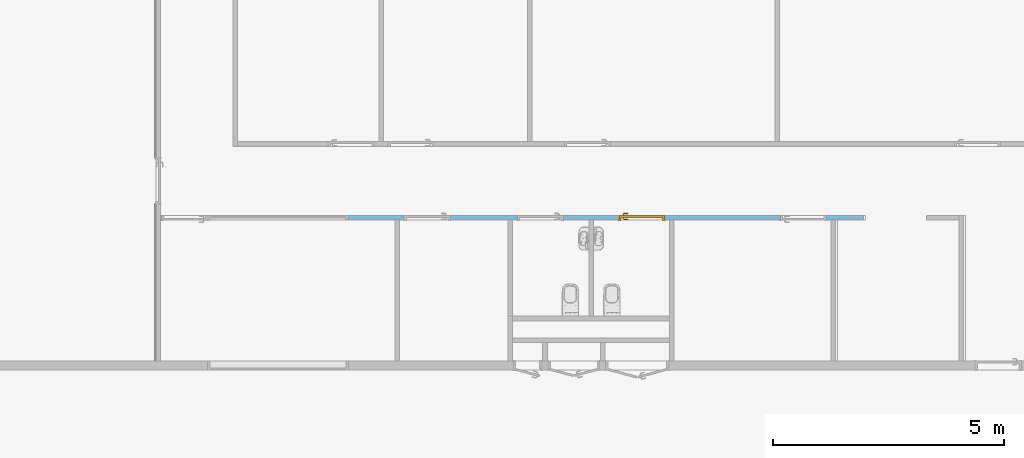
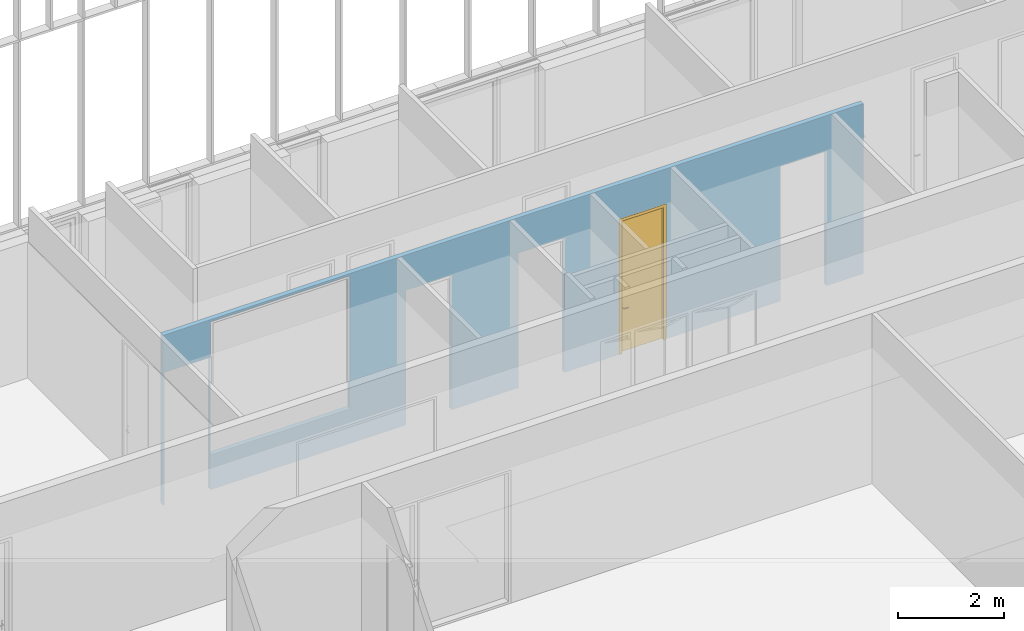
# One storey, part 140 of 240: 1 door, 6 openings, plus 1 element that does not belong to this part.
"""IFC2X3 building model written with IfcOpenShell, lengths in centimetres."""

import ifcopenshell
import ifcopenshell.guid

model = None  # the IFC model being written
_history = None  # IfcOwnerHistory: only IFC2X3 demands one
_inside = {}  # id of a spatial element -> (the spatial element, [elements in it])
_under = {}  # id of a project, library or spatial element -> (it, [spatial elements below it])
_declared = {}  # id of a project -> (the project, [libraries it declares])
_typed = {}  # id of a type object -> (the type object, [elements of that type])
_made_of = {}  # id of a material, layer set ... -> (it, [elements and type objects made of it])


def new_model(schema):
    """Start an empty IFC model of exactly this schema.

    Asked for "IFC4X3", IfcOpenShell would pick the latest addendum, in which some entities
    have other attributes; the version numbers below select the first issue.
    IFC2X3 requires an IfcOwnerHistory on every rooted entity: one is made here for all.
    """
    global model, _history
    if schema == "IFC4X3":
        model = ifcopenshell.file(schema_version=(4, 3, 0, 0))
    else:
        model = ifcopenshell.file(schema=schema)
    _inside.clear()
    _under.clear()
    _declared.clear()
    _typed.clear()
    _made_of.clear()
    _history = None
    if model.schema == "IFC2X3":
        org = make("IfcOrganization", Name="unknown")
        user = make(
            "IfcPersonAndOrganization",
            ThePerson=make("IfcPerson", FamilyName="unknown"),
            TheOrganization=org,
        )
        app = make(
            "IfcApplication",
            ApplicationDeveloper=org,
            Version="unknown",
            ApplicationFullName="unknown",
            ApplicationIdentifier="unknown",
        )
        _history = make(
            "IfcOwnerHistory",
            OwningUser=user,
            OwningApplication=app,
            ChangeAction="ADDED",
            CreationDate=0,
        )
    return model


def make(cls, **values):
    """One entity of the class cls with the attributes given. An attribute that is None is left unset."""
    return model.create_entity(
        cls, **{name: value for name, value in values.items() if value is not None}
    )


def entity(cls, *values):
    """Any entity or typed value of the class cls, its attributes in the order of the schema. None: left unset."""
    e = model.create_entity(cls)
    for i, value in enumerate(values):
        if value is not None:
            e[i] = value
    return e


def rooted(cls, **values):
    """An entity with a GlobalId (a new one), such as an element, a storey or a relation."""
    return make(cls, GlobalId=ifcopenshell.guid.new(), OwnerHistory=_history, **values)


def si_unit(unit_type, name, prefix=None):
    """IfcSIUnit, for example si_unit("LENGTHUNIT", "METRE", prefix="MILLI")."""
    return make("IfcSIUnit", UnitType=unit_type, Prefix=prefix, Name=name)


def converted_unit(unit_type, name, factor, base, dimensions=None, offset=None):
    """IfcConversionBasedUnit, such as the inch: factor (a typed value) times the base unit."""
    return make(
        "IfcConversionBasedUnit"
        if offset is None
        else "IfcConversionBasedUnitWithOffset",
        ConversionOffset=offset,
        Dimensions=None
        if dimensions is None
        else entity("IfcDimensionalExponents", *dimensions),
        UnitType=unit_type,
        Name=name,
        ConversionFactor=make(
            "IfcMeasureWithUnit", ValueComponent=factor, UnitComponent=base
        ),
    )


def derived_unit(unit_type, elements):
    """IfcDerivedUnit: a product of units, each with its exponent."""
    return make(
        "IfcDerivedUnit",
        Elements=[
            make("IfcDerivedUnitElement", Unit=unit, Exponent=power)
            for unit, power in elements
        ],
        UnitType=unit_type,
    )


def assignment(units):
    """IfcUnitAssignment: the units of a project."""
    return None if units is None else make("IfcUnitAssignment", Units=units)


def point(xyz):
    """IfcCartesianPoint."""
    return None if xyz is None else make("IfcCartesianPoint", Coordinates=xyz)


def direction(xyz):
    """IfcDirection."""
    return None if xyz is None else make("IfcDirection", DirectionRatios=xyz)


def frame(location, z_axis=None, x_axis=None):
    """IfcAxis2Placement3D, a coordinate frame: its origin and axes. An axis left out is left unset."""
    return make(
        "IfcAxis2Placement3D",
        Location=point(location),
        Axis=direction(z_axis),
        RefDirection=direction(x_axis),
    )


def frame_2d(location, x_axis=None):
    """IfcAxis2Placement2D, a coordinate frame in the plane: its origin and x axis."""
    return make(
        "IfcAxis2Placement2D", Location=point(location), RefDirection=direction(x_axis)
    )


def origin():
    """The frame at (0, 0, 0) with its axes left unset."""
    return frame((0.0, 0.0, 0.0))


def place(relative_to, where):
    """IfcLocalPlacement: puts the frame where relative to a parent placement (None: the world)."""
    return make(
        "IfcLocalPlacement", PlacementRelTo=relative_to, RelativePlacement=where
    )


def context(
    kind, dimensions, precision=None, world=None, true_north=None, identifier=None
):
    """IfcGeometricRepresentationContext, for example the 3D "Model" context."""
    return make(
        "IfcGeometricRepresentationContext",
        ContextIdentifier=identifier,
        ContextType=kind,
        CoordinateSpaceDimension=dimensions,
        Precision=precision,
        WorldCoordinateSystem=world,
        TrueNorth=true_north,
    )


def subcontext(parent, identifier, kind, view, scale=None):
    """IfcGeometricRepresentationSubContext, for example "Body" below "Model"."""
    return make(
        "IfcGeometricRepresentationSubContext",
        ContextIdentifier=identifier,
        ContextType=kind,
        ParentContext=parent,
        TargetScale=scale,
        TargetView=view,
    )


def project(units=None, contexts=None):
    """IfcProject with its units and contexts."""
    return rooted(
        "IfcProject",
        Name="project",
        RepresentationContexts=contexts,
        UnitsInContext=assignment(units),
    )


def spatial(cls, under=None, at=None, **own):
    """A site, building, storey or space (cls), placed at a placement, below another one or the project."""
    s = rooted(cls, ObjectPlacement=at, **own)
    if under is not None:
        _under.setdefault(under.id(), (under, []))[1].append(s)
    return s


def polyline(points):
    """IfcPolyline through the points."""
    return make("IfcPolyline", Points=[point(p) for p in points])


def profile(cls, at=None, kind="AREA", **sizes):
    """A parametric profile (cls). Its sizes go by their IFC names, for example OverallWidth=200.0."""
    return make(cls, ProfileType=kind, Position=at, **sizes)


def rectangle(**sizes):
    """IfcRectangleProfileDef."""
    return profile("IfcRectangleProfileDef", **sizes)


def extrude(swept, where, along, depth):
    """IfcExtrudedAreaSolid: the profile swept, set in the frame where, extruded along a direction by depth."""
    return make(
        "IfcExtrudedAreaSolid",
        SweptArea=swept,
        Position=where,
        ExtrudedDirection=direction(along),
        Depth=depth,
    )


def clip(a, b, op="DIFFERENCE"):
    """IfcBooleanClippingResult: the solid a cut by the half space b."""
    return make(
        "IfcBooleanClippingResult", Operator=op, FirstOperand=a, SecondOperand=b
    )


def bounded_halfspace(plane, agree, where, boundary):
    """IfcPolygonalBoundedHalfSpace: a half space limited to a polygon's prism."""
    return make(
        "IfcPolygonalBoundedHalfSpace",
        BaseSurface=make("IfcPlane", Position=plane),
        AgreementFlag=agree,
        Position=where,
        PolygonalBoundary=boundary,
    )


def faces_of(points, faces, orient=None, outer=None):
    """IfcFace entities. A face is a list of loops; a loop is a list of indices into points, from 0.

    orient and outer hold one flag for each loop. By default every Orientation is true, the
    first loop of a face is its IfcFaceOuterBound and the others are IfcFaceBound.
    """
    made = []
    for i, loops in enumerate(faces):
        bounds = []
        for j, loop in enumerate(loops):
            is_outer = j == 0 if outer is None else outer[i][j]
            bounds.append(
                make(
                    "IfcFaceOuterBound" if is_outer else "IfcFaceBound",
                    Bound=make("IfcPolyLoop", Polygon=[points[k] for k in loop]),
                    Orientation=True if orient is None else orient[i][j],
                )
            )
        made.append(make("IfcFace", Bounds=bounds))
    return made


def faceted_brep(points, faces, orient=None, outer=None, voids=None):
    """IfcFacetedBrep: a solid bounded by flat faces; with voids (closed shells), ...WithVoids."""
    shared = [point(p) for p in points]
    hull = make("IfcClosedShell", CfsFaces=faces_of(shared, faces, orient, outer))
    if voids is None:
        return make("IfcFacetedBrep", Outer=hull)
    return make(
        "IfcFacetedBrepWithVoids",
        Outer=hull,
        Voids=[
            make(cls, CfsFaces=faces_of(shared, fs, o, b)) for cls, fs, o, b in voids
        ],
    )


def shape(context_of_items, identifier, shape_type, items):
    """IfcShapeRepresentation: the items that make up one representation, for example the "Body"."""
    return make(
        "IfcShapeRepresentation",
        ContextOfItems=context_of_items,
        RepresentationIdentifier=identifier,
        RepresentationType=shape_type,
        Items=items,
    )


def source(mapping_origin, context_of_items, identifier, shape_type, items):
    """IfcRepresentationMap: a shape defined once, which mapped items show again and again."""
    return make(
        "IfcRepresentationMap",
        MappingOrigin=mapping_origin,
        MappedRepresentation=shape(context_of_items, identifier, shape_type, items),
    )


def transform(
    local_origin,
    x_axis=None,
    y_axis=None,
    z_axis=None,
    scale=None,
    scale2=None,
    scale3=None,
    uniform=True,
):
    """IfcCartesianTransformationOperator3D, or its non-uniform kind. x_axis, y_axis, z_axis: its Axis1, 2, 3."""
    if uniform:
        return make(
            "IfcCartesianTransformationOperator3D",
            Axis1=direction(x_axis),
            Axis2=direction(y_axis),
            LocalOrigin=point(local_origin),
            Scale=scale,
            Axis3=direction(z_axis),
        )
    return make(
        "IfcCartesianTransformationOperator3DnonUniform",
        Axis1=direction(x_axis),
        Axis2=direction(y_axis),
        LocalOrigin=point(local_origin),
        Scale=scale,
        Axis3=direction(z_axis),
        Scale2=scale2,
        Scale3=scale3,
    )


def mapped(mapping_source, mapping_target):
    """IfcMappedItem: shows the shape of a source again, moved by a transform."""
    return make(
        "IfcMappedItem", MappingSource=mapping_source, MappingTarget=mapping_target
    )


def material(Name=None, Category=None):
    """IfcMaterial."""
    return make("IfcMaterial", Name=Name, Category=Category)


def material_list(materials):
    """IfcMaterialList."""
    return make("IfcMaterialList", Materials=materials)


def layer(
    of_material, thickness, ventilated=None, Name=None, Category=None, Priority=None
):
    """IfcMaterialLayer: one layer of a wall or slab, of a material (None: an air gap)."""
    return make(
        "IfcMaterialLayer",
        Material=of_material,
        LayerThickness=thickness,
        IsVentilated=ventilated,
        Name=Name,
        Category=Category,
        Priority=Priority,
    )


def layer_set(layers, Name=None):
    """IfcMaterialLayerSet."""
    return make("IfcMaterialLayerSet", MaterialLayers=layers, LayerSetName=Name)


def layer_usage(for_layer_set, set_direction, sense, offset, extent=None):
    """IfcMaterialLayerSetUsage: how a layer set lies in its element."""
    return make(
        "IfcMaterialLayerSetUsage",
        ForLayerSet=for_layer_set,
        LayerSetDirection=set_direction,
        DirectionSense=sense,
        OffsetFromReferenceLine=offset,
        ReferenceExtent=extent,
    )


def made_of(thing, what):
    """Note that an element or type object is made of a material, layer set ...; save() writes the relation."""
    if what is not None:
        _made_of.setdefault(what.id(), (what, []))[1].append(thing)
    return thing


def type_object(cls, material=None, **own):
    """A type object (cls), such as IfcWallType, which elements share."""
    return made_of(rooted(cls, **own), material)


def type_shapes(of_type, sources):
    """Give a type object the sources (RepresentationMaps) that its elements show as mapped items."""
    of_type.RepresentationMaps = sources


def element(
    cls,
    number,
    at=None,
    inside=None,
    cuts=None,
    type_object=None,
    material=None,
    context=None,
    identifier="Body",
    shape_type=None,
    held_by="IfcProductDefinitionShape",
    body=None,
    shapes=None,
    **own,
):
    """One element of the class cls, such as IfcWall. Its Tag is "e" and its number.

    at: its placement. inside: the storey or other place that contains it. cuts: it is an
    opening in that element (IfcRelVoidsElement). A single representation is given by context,
    identifier, shape_type and body (its items); several are given by shapes. held_by: the class
    of the entity that holds the representations. save() writes the other relations.
    """
    e = rooted(cls, Tag="e%d" % number, ObjectPlacement=at, **own)
    if body is not None:
        shapes = [shape(context, identifier, shape_type, body)]
    if shapes is not None:
        e.Representation = make(held_by, Representations=shapes)
    if inside is not None:
        _inside.setdefault(inside.id(), (inside, []))[1].append(e)
    if cuts is not None:
        rooted(
            "IfcRelVoidsElement", RelatingBuildingElement=cuts, RelatedOpeningElement=e
        )
    if type_object is not None:
        _typed.setdefault(type_object.id(), (type_object, []))[1].append(e)
    return made_of(e, material)


def fill(opening, filler):
    """IfcRelFillsElement: the door or window that sits in an opening."""
    return rooted(
        "IfcRelFillsElement",
        RelatingOpeningElement=opening,
        RelatedBuildingElement=filler,
    )


def aggregate(whole, parts):
    """IfcRelAggregates: a whole, such as a stair, and the parts it consists of."""
    return rooted("IfcRelAggregates", RelatingObject=whole, RelatedObjects=parts)


def save(model, path):
    """Write the relations noted so far, then the file.

    IfcRelAggregates (storeys below a building ...), IfcRelContainedInSpatialStructure (elements
    in a storey), IfcRelDefinesByType, IfcRelAssociatesMaterial and IfcRelDeclares: one each for
    every whole, place, type object, material and project.
    """
    for whole, parts in _under.values():
        aggregate(whole, parts)
    for where, things in _inside.values():
        rooted(
            "IfcRelContainedInSpatialStructure",
            RelatedElements=things,
            RelatingStructure=where,
        )
    for kind, things in _typed.values():
        rooted("IfcRelDefinesByType", RelatedObjects=things, RelatingType=kind)
    for what, things in _made_of.values():
        rooted("IfcRelAssociatesMaterial", RelatedObjects=things, RelatingMaterial=what)
    for by, libraries in _declared.values():
        rooted("IfcRelDeclares", RelatingContext=by, RelatedDefinitions=libraries)
    model.write(path)


model = new_model("IFC2X3")

# Units and contexts
model_context = context("Model", 3, precision=0.001, world=origin(), true_north=direction((6.12303176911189e-17, 1.0)))
body_context = subcontext(model_context, "Body", "Model", "MODEL_VIEW")
ifc_project = project(units=[si_unit("LENGTHUNIT", "METRE", prefix="CENTI"), si_unit("AREAUNIT", "SQUARE_METRE"), si_unit("VOLUMEUNIT", "CUBIC_METRE"), converted_unit("PLANEANGLEUNIT", "DEGREE", entity("IfcRatioMeasure", 0.0174532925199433), si_unit("PLANEANGLEUNIT", "RADIAN"), dimensions=[0, 0, 0, 0, 0, 0, 0]), si_unit("MASSUNIT", "GRAM", prefix="KILO"), derived_unit("MASSDENSITYUNIT", [(si_unit("MASSUNIT", "GRAM", prefix="KILO"), 1), (si_unit("LENGTHUNIT", "METRE"), -3)]), si_unit("TIMEUNIT", "SECOND"), si_unit("FREQUENCYUNIT", "HERTZ"), si_unit("THERMODYNAMICTEMPERATUREUNIT", "DEGREE_CELSIUS"), derived_unit("THERMALTRANSMITTANCEUNIT", [(si_unit("MASSUNIT", "GRAM", prefix="KILO"), 1), (si_unit("THERMODYNAMICTEMPERATUREUNIT", "KELVIN"), -1), (si_unit("TIMEUNIT", "SECOND"), -3)]), derived_unit("VOLUMETRICFLOWRATEUNIT", [(si_unit("LENGTHUNIT", "METRE"), 3), (si_unit("TIMEUNIT", "SECOND"), -1)]), si_unit("ELECTRICCURRENTUNIT", "AMPERE"), si_unit("ELECTRICVOLTAGEUNIT", "VOLT"), si_unit("POWERUNIT", "WATT"), si_unit("FORCEUNIT", "NEWTON", prefix="KILO"), si_unit("ILLUMINANCEUNIT", "LUX"), si_unit("LUMINOUSFLUXUNIT", "LUMEN"), si_unit("LUMINOUSINTENSITYUNIT", "CANDELA"), derived_unit("USERDEFINED", [(si_unit("MASSUNIT", "GRAM", prefix="KILO"), -1), (si_unit("LENGTHUNIT", "METRE"), -2), (si_unit("TIMEUNIT", "SECOND"), 3), (si_unit("LUMINOUSFLUXUNIT", "LUMEN"), 1)]), derived_unit("LINEARVELOCITYUNIT", [(si_unit("LENGTHUNIT", "METRE"), 1), (si_unit("TIMEUNIT", "SECOND"), -1)]), si_unit("PRESSUREUNIT", "PASCAL"), derived_unit("USERDEFINED", [(si_unit("LENGTHUNIT", "METRE"), -2), (si_unit("MASSUNIT", "GRAM", prefix="KILO"), 1), (si_unit("TIMEUNIT", "SECOND"), -2)])], contexts=[model_context])

# Site, building, storey
site_placement = place(None, frame((-2781.94577612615, 7442.24238424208, 0.0)))
site = spatial("IfcSite", under=ifc_project, at=site_placement, Name="Default", CompositionType="ELEMENT")
building_placement = place(site_placement, origin())
building = spatial("IfcBuilding", under=site, at=building_placement, CompositionType="ELEMENT")
storey_placement = place(building_placement, origin())
storey = spatial("IfcBuildingStorey", under=building, at=storey_placement, Name="N00 - COO", CompositionType="ELEMENT", Elevation=0.0)

# Wall, openings, door
ifc_material_1 = material(Name="01 - Enduit/Plâtre")
ifc_layer_1 = layer(ifc_material_1, 1.3)
ifc_material_2 = material(Name="00 - Isolant")
ifc_layer_2 = layer(ifc_material_2, 7.4)
ifc_layer_3 = layer(ifc_material_1, 1.3)
ifc_layer_set = layer_set([ifc_layer_1, ifc_layer_2, ifc_layer_3], Name="Mur de base:06 - cloisons - Ba13 10cm")
ifc_layer_usage = layer_usage(ifc_layer_set, "AXIS2", "NEGATIVE", 5.0)
wall_type = type_object("IfcWallType", Name="Mur de base:06 - cloisons - Ba13 10cm", PredefinedType="STANDARD", material=ifc_layer_set)
wall_placement = place(building_placement, frame((-6043.49987760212, -500.0, 0.0), z_axis=(0.0, 0.0, 1.0), x_axis=(-1.0, 0.0, 0.0)))
wall = element("IfcWallStandardCase", 1, at=wall_placement, inside=storey, type_object=wall_type, material=ifc_layer_usage, Name="Mur de base:06 - cloisons - Ba13 10cm", ObjectType="Mur de base:06 - cloisons - Ba13 10cm", context=body_context, shape_type="Clipping", body=[
    clip(extrude(rectangle(XDim=1522.75, YDim=10.0000000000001, at=frame_2d((761.375000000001, 2.04281036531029e-14), x_axis=(-1.0, 0.0))), origin(), (0.0, 0.0, 1.0), 391.0), bounded_halfspace(frame((0.0, -5.0, 391.0), z_axis=(0.0, 0.0, -1.0), x_axis=(0.0, -1.0, 0.0)), True, frame((0.0, -5.0, 391.0)), polyline([(0.0, 0.0), (1522.75, 0.0), (1522.75, 10.0), (1015.0, 10.0), (1005.0, 10.0), (770.0, 10.0), (760.0, 10.0), (595.0, 10.0), (585.0, 10.0), (420.0, 10.0), (410.0, 10.0), (70.0, 10.0), (60.0, 10.0), (0.0, 10.0), (0.0, 0.0)]))),
])
opening_1_placement = place(wall_placement, frame((80.0, -5.0, 0.0)))
element("IfcOpeningElement", 2, at=opening_1_placement, cuts=wall, Name="Int. Simple:PP (0.93m x 3.06m):1", ObjectType="Opening", context=body_context, shape_type="SweptSolid", body=[
    extrude(rectangle(XDim=309.500000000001, YDim=99.9999999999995, at=frame_2d((154.750000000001, 50.0), x_axis=(1.0, 0.0))), frame((0.0, 0.0, 0.0), z_axis=(0.0, 1.0, 0.0), x_axis=(0.0, 0.0, 1.0)), (0.0, 0.0, 1.0), 10.0),
])
opening_2_placement = place(wall_placement, frame((530.0, 5.0, 0.0)))
opening_2 = element("IfcOpeningElement", 3, at=opening_2_placement, cuts=wall, Name="Int. Simple:PP (0.93m x 3.06m):1", ObjectType="Opening", context=body_context, shape_type="SweptSolid", body=[
    extrude(rectangle(XDim=309.500000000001, YDim=99.9999999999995, at=frame_2d((154.750000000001, 49.9999999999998), x_axis=(1.0, 0.0))), frame((0.0, 0.0, 0.0), z_axis=(0.0, -1.0, 0.0), x_axis=(0.0, 0.0, 1.0)), (0.0, 0.0, 1.0), 10.0),
])
opening_3_placement = place(wall_placement, frame((750.0, 5.0, 0.0)))
element("IfcOpeningElement", 4, at=opening_3_placement, cuts=wall, Name="Int. Simple:PP (0.93m x 3.06m):1", ObjectType="Opening", context=body_context, shape_type="SweptSolid", body=[
    extrude(rectangle(XDim=309.500000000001, YDim=99.9999999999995, at=frame_2d((154.750000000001, 50.0), x_axis=(1.0, 0.0))), frame((0.0, 0.0, 0.0), z_axis=(0.0, -1.0, 0.0), x_axis=(0.0, 0.0, 1.0)), (0.0, 0.0, 1.0), 10.0),
])
opening_4_placement = place(wall_placement, frame((995.0, 5.0, 0.0)))
element("IfcOpeningElement", 5, at=opening_4_placement, cuts=wall, Name="Int. Simple:PP (0.93m x 3.06m):1", ObjectType="Opening", context=body_context, shape_type="SweptSolid", body=[
    extrude(rectangle(XDim=309.500000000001, YDim=99.9999999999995, at=frame_2d((154.750000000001, 50.0), x_axis=(1.0, 0.0))), frame((0.0, 0.0, 0.0), z_axis=(0.0, -1.0, 0.0), x_axis=(0.0, 0.0, 1.0)), (0.0, 0.0, 1.0), 10.0),
])
opening_5_placement = place(wall_placement, frame((1420.0, -5.0, 0.0)))
element("IfcOpeningElement", 6, at=opening_5_placement, cuts=wall, Name="Int. Simple:PV (0.93m x 3.00m):1", ObjectType="Opening", context=body_context, shape_type="SweptSolid", body=[
    extrude(rectangle(XDim=304.500000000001, YDim=99.9999999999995, at=frame_2d((152.250000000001, 49.9999999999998), x_axis=(1.0, 0.0))), frame((0.0, 0.0, 0.0), z_axis=(0.0, 1.0, 0.0), x_axis=(0.0, 0.0, 1.0)), (0.0, 0.0, 1.0), 10.0),
])
opening_6_placement = place(wall_placement, frame((1116.72491693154, -5.0, 80.0)))
element("IfcOpeningElement", 7, at=opening_6_placement, cuts=wall, Name="châssis intérieur vitré:châssis intérieur vitré (h=306):1", ObjectType="Opening", context=body_context, shape_type="SweptSolid", body=[
    extrude(rectangle(XDim=306.0, YDim=302.862969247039, at=frame_2d((153.0, 151.43148462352), x_axis=(1.0, 0.0))), frame((0.0, 0.0, 0.0), z_axis=(0.0, 1.0, 0.0), x_axis=(0.0, 0.0, 1.0)), (0.0, 0.0, 1.0), 10.0),
])
ifc_material_3 = material(Name="Finition Peinture - Blanc satiné")
ifc_material_4 = material(Name="Bois - Panneau de porte")
ifc_material_5 = material(Name="Bois - Cadre de porte")
ifc_material_list_1 = material_list([ifc_material_3, ifc_material_4, ifc_material_5])
ifc_material_list_2 = material_list([ifc_material_3, ifc_material_4, ifc_material_5])
door_style = type_object("IfcDoorStyle", Name="PP (0.93m x 3.06m)", ConstructionType="NOTDEFINED", OperationType="SINGLE_SWING_RIGHT", ParameterTakesPrecedence=False, Sizeable=False, material=ifc_material_list_2)
shared_shape = source(origin(), body_context, "Body", "Brep", [
    faceted_brep([(99.5000000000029, -0.500000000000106, 87.0), (99.5000000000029, -0.500000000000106, 108.0), (98.535276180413, -0.500000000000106, 108.399601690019), (97.5000000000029, -0.500000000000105, 108.535898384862), (96.4647238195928, -0.500000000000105, 108.399601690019), (95.500000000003, -0.500000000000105, 108.0), (95.5000000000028, -0.500000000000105, 87.0), (96.4647238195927, -0.500000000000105, 86.6003983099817), (97.5000000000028, -0.500000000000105, 86.464101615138), (98.5352761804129, -0.500000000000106, 86.6003983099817), (99.5000000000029, 0.0, 108.0), (99.5000000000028, 0.0, 87.0), (98.5352761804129, 0.0, 86.6003983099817), (97.5000000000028, 0.0, 86.464101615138), (96.4647238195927, 0.0, 86.6003983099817), (95.5000000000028, 0.0, 87.0), (95.5000000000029, 0.0, 108.0), (96.4647238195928, 0.0, 108.399601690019), (97.5000000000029, 0.0, 108.535898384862), (98.535276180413, 0.0, 108.399601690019)], [[[0, 1, 2, 3, 4, 5, 6, 7, 8, 9]], [[10, 11, 12, 13, 14, 15, 16, 17, 18, 19]], [[9, 12, 11, 0]], [[8, 13, 12, 9]], [[7, 14, 13, 8]], [[7, 6, 15, 14]], [[15, 6, 5, 16]], [[4, 17, 16, 5]], [[3, 18, 17, 4]], [[2, 19, 18, 3]], [[2, 1, 10, 19]], [[11, 10, 1, 0]]]),
    faceted_brep([(99.5000000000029, 4.0, 87.0), (99.5000000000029, 4.0, 108.0), (98.535276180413, 4.0, 108.399601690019), (97.5000000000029, 4.0, 108.535898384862), (96.4647238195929, 4.0, 108.399601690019), (95.500000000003, 4.0, 108.0), (95.5000000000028, 4.0, 87.0), (96.4647238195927, 4.0, 86.6003983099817), (97.5000000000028, 4.0, 86.464101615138), (98.5352761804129, 4.0, 86.6003983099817), (97.5000000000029, 4.49999999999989, 108.535898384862), (98.535276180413, 4.49999999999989, 108.399601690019), (99.5000000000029, 4.49999999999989, 108.0), (99.5000000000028, 4.49999999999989, 87.0), (98.5352761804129, 4.49999999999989, 86.6003983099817), (97.5000000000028, 4.49999999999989, 86.464101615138), (96.4647238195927, 4.49999999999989, 86.6003983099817), (95.5000000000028, 4.49999999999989, 87.0), (95.500000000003, 4.49999999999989, 108.0), (96.4647238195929, 4.49999999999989, 108.399601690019)], [[[0, 1, 2, 3, 4, 5, 6, 7, 8, 9]], [[10, 11, 12, 13, 14, 15, 16, 17, 18, 19]], [[4, 19, 18, 5]], [[3, 10, 19, 4]], [[2, 11, 10, 3]], [[2, 1, 12, 11]], [[13, 12, 1, 0]], [[9, 14, 13, 0]], [[8, 15, 14, 9]], [[7, 16, 15, 8]], [[7, 6, 17, 16]], [[17, 6, 5, 18]]]),
    faceted_brep([(97.2974701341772, -0.50000000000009, 100.778044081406), (97.7025298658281, -0.500000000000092, 100.778044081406), (98.1000000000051, -0.500000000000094, 100.699999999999), (98.100000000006, -0.500000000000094, 99.2999999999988), (97.7025298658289, -0.500000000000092, 99.221955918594), (97.297470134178, -0.50000000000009, 99.2219559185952), (96.9000000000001, -0.500000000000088, 99.3000000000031), (96.9000000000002, -0.500000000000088, 100.7), (97.7025298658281, -3.10045754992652, 100.778044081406), (98.1000000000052, -3.26509507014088, 100.7), (97.2974701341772, -2.93267631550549, 100.778044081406), (95.9298602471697, -4.30028620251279, 100.778044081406), (96.0976414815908, -4.70534593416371, 100.778044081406), (96.9000000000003, -2.76803879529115, 100.7), (96.9000000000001, -2.76803879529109, 99.3000000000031), (97.297470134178, -2.93267631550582, 99.2219559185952), (97.7025298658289, -3.10045754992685, 99.221955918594), (96.0976414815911, -4.70534593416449, 99.221955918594), (95.9298602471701, -4.30028620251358, 99.2219559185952), (98.100000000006, -3.26509507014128, 99.2999999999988), (96.2622790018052, -5.10281606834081, 100.7), (95.7652227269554, -3.90281606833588, 100.7), (95.7652227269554, -3.90281606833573, 99.3000000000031), (96.2622790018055, -5.10281606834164, 99.2999999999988), (87.4981359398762, -5.10281606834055, 100.7), (87.4981359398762, -4.70534593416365, 100.778044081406), (87.4981359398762, -4.30028620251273, 100.778044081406), (87.4981359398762, -3.90281606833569, 100.699999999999), (87.4981359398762, -3.90281606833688, 99.3000000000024), (87.4981359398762, -4.30028620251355, 99.2219559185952), (87.4981359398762, -4.70534593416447, 99.221955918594), (87.4981359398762, -5.10281606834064, 99.2999999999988), (91.7139980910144, -4.5028160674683, 100.78786867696), (92.2692302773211, -5.1028160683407, 100.7), (91.6316793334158, -3.9028160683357, 100.7), (91.631679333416, -3.9028160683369, 99.3000000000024), (91.7139981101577, -4.50281607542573, 99.2121313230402), (92.2692310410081, -5.10281606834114, 99.2999999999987)], [[[0, 1, 2, 3, 4, 5, 6, 7]], [[2, 1, 8, 9]], [[1, 0, 10, 11, 12, 8]], [[0, 7, 13, 10]], [[14, 13, 7, 6]], [[5, 15, 14, 6]], [[5, 4, 16, 17, 18, 15]], [[3, 19, 16, 4]], [[9, 19, 3, 2]], [[9, 8, 12, 20]], [[10, 13, 21, 11]], [[22, 21, 13, 14]], [[14, 15, 18, 22]], [[16, 19, 23, 17]], [[20, 23, 19, 9]], [[24, 25, 26, 27, 28, 29, 30, 31]], [[32, 25, 33]], [[33, 25, 24]], [[33, 20, 12]], [[11, 34, 32]], [[34, 11, 21]], [[27, 26, 34]], [[32, 26, 25]], [[32, 34, 26]], [[32, 33, 12]], [[11, 32, 12]], [[21, 22, 35, 28, 27, 34]], [[36, 29, 35]], [[30, 36, 37]], [[18, 35, 22]], [[29, 28, 35]], [[30, 37, 31]], [[37, 17, 23]], [[36, 17, 37]], [[36, 18, 17]], [[36, 35, 18]], [[29, 36, 30]], [[23, 20, 33, 24, 31, 37]]]),
    faceted_brep([(97.2974701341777, 4.49999999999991, 99.2219559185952), (97.7025298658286, 4.49999999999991, 99.221955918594), (98.1000000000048, 4.4999999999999, 99.2999999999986), (98.1000000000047, 4.4999999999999, 100.7), (97.7025298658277, 4.49999999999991, 100.778044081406), (97.2974701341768, 4.49999999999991, 100.778044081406), (96.8999999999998, 4.49999999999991, 100.7), (96.900000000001, 4.49999999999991, 99.3000000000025), (96.8999999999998, 6.7485204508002, 100.7), (96.8999999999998, 6.74852045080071, 99.3000000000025), (97.2974701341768, 6.91315797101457, 100.778044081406), (97.7025298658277, 7.0809392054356, 100.778044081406), (96.0838906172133, 8.69957845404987, 100.778044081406), (95.9161093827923, 8.29451872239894, 100.778044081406), (98.1000000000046, 7.24557672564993, 100.7), (98.1000000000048, 7.24557672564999, 99.2999999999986), (97.7025298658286, 7.08093920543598, 99.221955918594), (97.2974701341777, 6.91315797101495, 99.2219559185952), (95.9161093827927, 8.29451872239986, 99.2219559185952), (96.0838906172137, 8.69957845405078, 99.221955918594), (95.751471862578, 7.89704858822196, 100.7), (95.7514718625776, 7.89704858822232, 99.3000000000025), (96.2485281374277, 9.09704858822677, 100.7), (96.2485281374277, 9.09704858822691, 99.2999999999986), (87.4954216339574, 8.29451872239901, 100.778044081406), (87.4954216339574, 8.69957845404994, 100.778044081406), (87.4954216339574, 9.09704858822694, 100.7), (87.4954216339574, 9.09704858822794, 99.2999999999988), (87.4954216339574, 8.6995784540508, 99.221955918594), (87.4954216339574, 8.29451872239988, 99.2219559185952), (87.4954216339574, 7.89704858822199, 99.3000000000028), (87.4954216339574, 7.89704858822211, 100.7), (91.6234467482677, 7.89704858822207, 100.7), (91.6234479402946, 7.89704858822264, 99.3000000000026), (91.7057655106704, 8.49704858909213, 100.78786867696), (92.255479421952, 9.09704858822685, 100.7), (92.2554795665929, 9.09704858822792, 99.2999999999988), (91.7057654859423, 8.49704858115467, 99.2121313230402)], [[[0, 1, 2, 3, 4, 5, 6, 7]], [[8, 9, 7, 6]], [[5, 10, 8, 6]], [[5, 4, 11, 12, 13, 10]], [[3, 14, 11, 4]], [[14, 3, 2, 15]], [[2, 1, 16, 15]], [[1, 0, 17, 18, 19, 16]], [[0, 7, 9, 17]], [[20, 21, 9, 8]], [[8, 10, 13, 20]], [[14, 22, 12, 11]], [[23, 22, 14, 15]], [[15, 16, 19, 23]], [[17, 9, 21, 18]], [[24, 25, 26, 27, 28, 29, 30, 31]], [[21, 20, 32, 31, 30, 33]], [[34, 24, 32]], [[25, 34, 35]], [[13, 32, 20]], [[24, 31, 32]], [[25, 35, 26]], [[35, 12, 22]], [[34, 12, 35]], [[34, 13, 12]], [[34, 32, 13]], [[24, 34, 25]], [[22, 23, 36, 27, 26, 35]], [[37, 28, 36]], [[36, 28, 27]], [[36, 23, 19]], [[18, 33, 37]], [[33, 18, 21]], [[30, 29, 33]], [[37, 29, 28]], [[37, 33, 29]], [[37, 36, 19]], [[18, 37, 19]]]),
    faceted_brep([(103.500000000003, 4.0, 306.0), (103.500000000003, 4.0, 0.0), (10.5000000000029, 4.0, 0.0), (10.5000000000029, 4.0, 306.0), (103.500000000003, 0.0, 306.0), (10.5000000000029, 0.0, 306.0), (10.5000000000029, 0.0, 0.0), (103.500000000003, 0.0, 0.0)], [[[0, 1, 2, 3]], [[4, 5, 6, 7]], [[3, 5, 4, 0]], [[2, 6, 5, 3]], [[1, 7, 6, 2]], [[0, 4, 7, 1]]]),
    faceted_brep([(107.0, 10.0, 0.0), (107.0, 0.0, 0.0), (108.500000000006, 0.0, 0.0), (108.500000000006, -0.500000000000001, 0.0), (103.500000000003, -0.500000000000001, 0.0), (103.500000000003, 4.0, 0.0), (102.0, 4.0, 0.0), (102.0, 10.5000000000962, 0.0), (108.500000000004, 10.5000000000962, 0.0), (108.500000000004, 10.0, 0.0), (108.500000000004, 10.0, 311.0), (5.50000000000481, 10.0, 311.0), (5.50000000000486, 10.0, 0.0), (7.0, 10.0, 0.0), (7.0, 10.0, 309.500000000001), (107.0, 10.0, 309.500000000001), (108.500000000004, 10.5000000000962, 311.0), (102.0, 10.5000000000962, 304.5), (12.0, 10.5000000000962, 304.5), (12.0, 10.5000000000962, 0.0), (5.50000000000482, 10.5000000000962, 0.0), (5.50000000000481, 10.5000000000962, 311.0), (102.0, 4.0, 304.5), (103.500000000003, 4.0, 306.0), (10.5000000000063, 4.0, 306.0), (10.5000000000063, 4.0, 0.0), (12.0, 4.0, 0.0), (12.0, 4.0, 304.5), (103.500000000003, -0.500000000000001, 306.0), (108.500000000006, -0.500000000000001, 311.0), (5.5000000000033, -0.500000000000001, 311.0), (5.50000000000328, -0.500000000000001, 0.0), (10.5000000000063, -0.500000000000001, 0.0), (10.5000000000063, -0.500000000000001, 306.0), (108.500000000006, 0.0, 311.0), (107.0, 0.0, 309.500000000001), (7.0, 0.0, 309.500000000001), (7.0, 0.0, 0.0), (5.5000000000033, 0.0, 0.0), (5.50000000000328, 0.0, 311.0)], [[[0, 1, 2, 3, 4, 5, 6, 7, 8, 9]], [[9, 10, 11, 12, 13, 14, 15, 0]], [[8, 16, 10, 9]], [[7, 17, 18, 19, 20, 21, 16, 8]], [[7, 6, 22, 17]], [[5, 23, 24, 25, 26, 27, 22, 6]], [[5, 4, 28, 23]], [[3, 29, 30, 31, 32, 33, 28, 4]], [[2, 34, 29, 3]], [[1, 35, 36, 37, 38, 39, 34, 2]], [[0, 15, 35, 1]], [[14, 13, 37, 36]], [[13, 12, 20, 19, 26, 25, 32, 31, 38, 37]], [[21, 20, 12, 11]], [[27, 26, 19, 18]], [[33, 32, 25, 24]], [[39, 38, 31, 30]], [[16, 21, 11, 10]], [[22, 27, 18, 17]], [[28, 33, 24, 23]], [[34, 39, 30, 29]], [[15, 14, 36, 35]]]),
])
type_shapes(door_style, [shared_shape])
door_placement = place(opening_2_placement, frame((-107.0, -10.0, 0.0)))
door = element("IfcDoor", 8, at=door_placement, inside=storey, type_object=door_style, material=ifc_material_list_1, Name="Int. Simple:PP (0.93m x 3.06m)", ObjectType="Int. Simple:PP (0.93m x 3.06m)", OverallHeight=309.500000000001, OverallWidth=99.9999999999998, context=body_context, shape_type="MappedRepresentation", body=[
    mapped(shared_shape, transform((0.0, 0.0, 0.0), scale=1.0)),
])
fill(opening_2, door)

save(model, "model.ifc")
